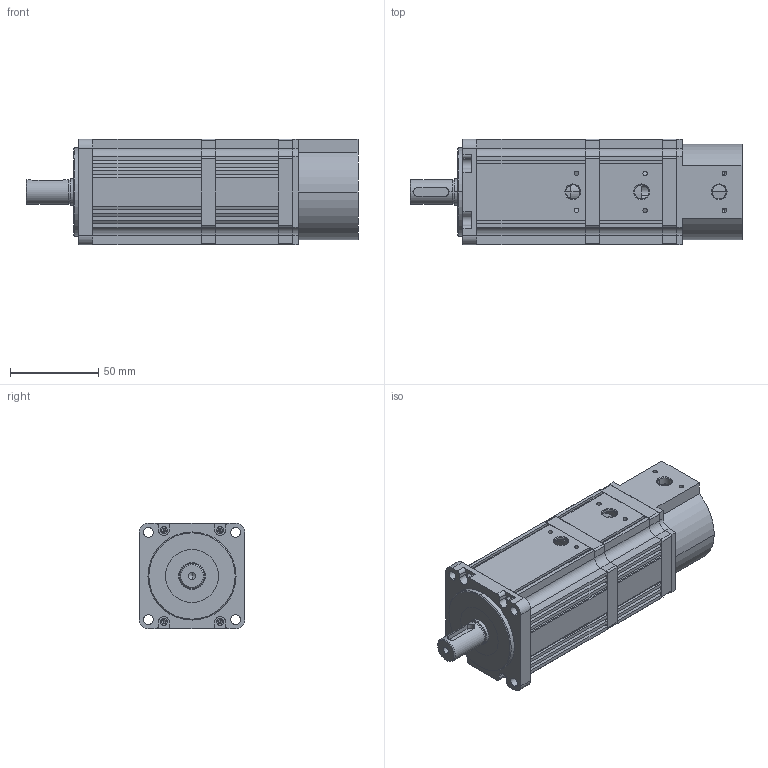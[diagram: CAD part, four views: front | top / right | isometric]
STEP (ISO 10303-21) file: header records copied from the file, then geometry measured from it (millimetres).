
FILE_DESCRIPTION (( 'STEP AP203' ), '1' );
FILE_NAME ('MS-60STE-M00630BZ-20P2.STEP', '2019-12-13T06:11:36', ( '' ), ( '' ), 'SwSTEP 2.0', 'SolidWorks 2016', '' );
FILE_SCHEMA (( 'CONFIG_CONTROL_DESIGN' ));
Length unit declared in the file: millimetre
Products named in the file (17): 60-00630-儂旯; GB／T276-94深沟球轴承6000; 嘎殤蚐猾15X30X4.5; 60-00630-棠詩; 囀躇諷35T2; 60-00630-蛌粣-惕掅; 60-儂旯 - 惕掅; 60-晤鎢ん裔; 60-00630-嘎殤; 瑞迪1.3NM; 60-笢傷裔-惕掅; 60-00630-隅赽; MS-60STE-M00630BZ-20P2; 60-ヶ傷裔; GB／T276-94深沟球轴承6002; 60-綴傷裔-惕掅; 60-00630-詩杶
Assembly tree (48 placements, depth 2):
  MS-60STE-M00630BZ-20P2
    60-00630-棠詩  x8
    60-00630-詩杶
    60-00630-儂旯
    60-00630-隅赽  x9
    60-ヶ傷裔
    60-晤鎢ん裔
    GB／T276-94深沟球轴承6002
    GB／T276-94深沟球轴承6000
    60-00630-蛌粣-惕掅
    60-笢傷裔-惕掅
    60-綴傷裔-惕掅
    60-儂旯 - 惕掅
    瑞迪1.3NM
    嘎殤蚐猾15X30X4.5
    60-00630-嘎殤  x18
    囀躇諷35T2
Bounding box: 188.5 x 60 x 60 mm (x, y, z)
Volume: 322406.1 mm3; surface area: 223890.2 mm2
Topology: 48 solids, 48 shells, 2331 faces, 6580 edges, 4338 vertices
Faces by surface type: plane 1399, cylinder 656, sphere 128, cone 72, torus 70, bspline 6
Entity records: 48224 total; most frequent: CARTESIAN_POINT 16182, ORIENTED_EDGE 6244, DIRECTION 6146, EDGE_CURVE 3122, AXIS2_PLACEMENT_3D 2367, VERTEX_POINT 2060, LINE 1412, VECTOR 1412
